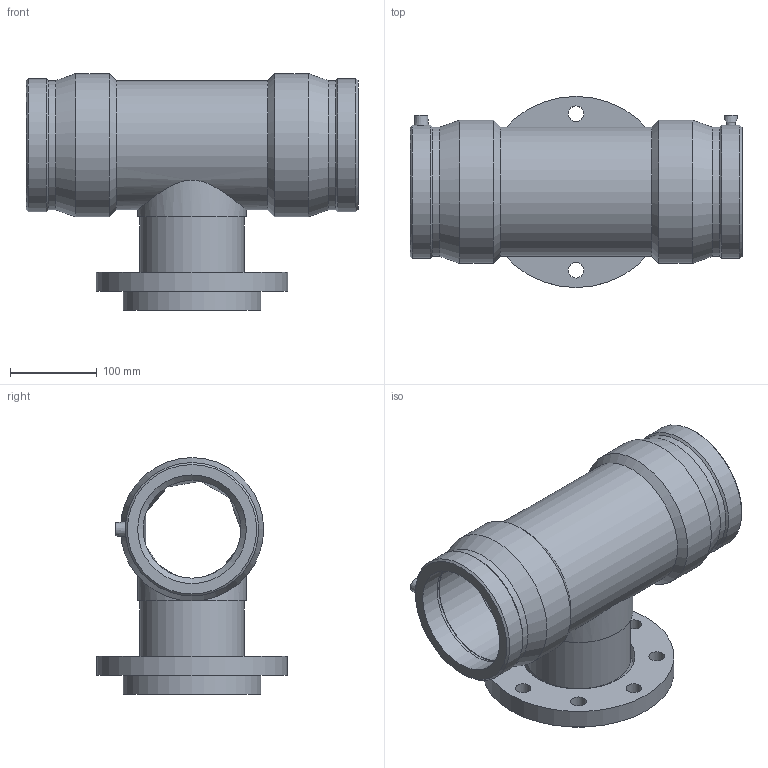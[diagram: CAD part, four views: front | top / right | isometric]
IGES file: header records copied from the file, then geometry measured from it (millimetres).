
Global section: file name: 499404125100.ipt; native system: Autodesk Inventor 2015; preprocessor: unknown; author: KIM; date: 20171106.094451; units: millimetre
Bounding box: 382 x 220 x 272.5 mm (x, y, z)
Volume: 3901458.3 mm3; surface area: 511105.9 mm2
Topology: 1 solids, 2 shells, 60 faces, 136 edges, 90 vertices
Faces by surface type: revolution 21, plane 14, cylinder 13, cone 11, bspline 1
Full cylindrical faces by diameter (mm): 4 x2, 120 x1, 125 x1, 148.5 x1, 148.846 x2, 153.45 x2, 158 x1, 165 x2, 220 x1
